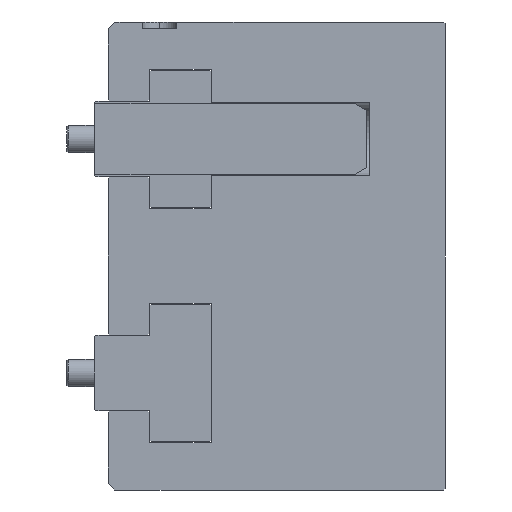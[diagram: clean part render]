
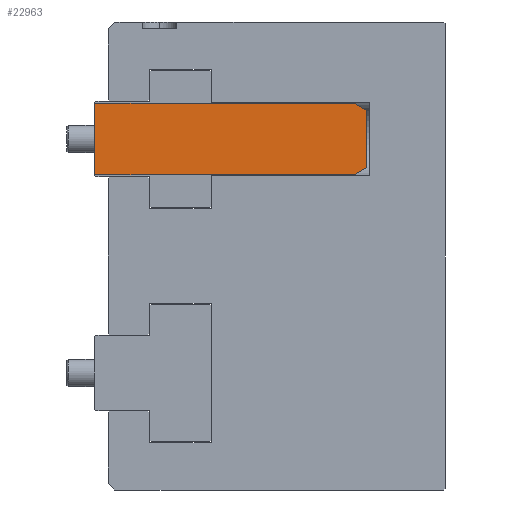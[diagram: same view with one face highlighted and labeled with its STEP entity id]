
A CAD part, left-side view. The second image highlights one B-rep face of the part: STEP entity #22963.
In plain terms, the highlighted planar face has unit normal (-1, 0, 0).
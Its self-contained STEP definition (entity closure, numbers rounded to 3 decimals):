
#3 = VECTOR ( 'NONE', #31892, 1000. ) ;
#511 = CARTESIAN_POINT ( 'NONE',  ( -160., -45., -8.329 ) ) ;
#1090 = VERTEX_POINT ( 'NONE', #12431 ) ;
#1132 = AXIS2_PLACEMENT_3D ( 'NONE', #21867, #25609, #4049 ) ;
#1576 = DIRECTION ( 'NONE',  ( 0., -1., 0. ) ) ;
#1589 = VECTOR ( 'NONE', #38367, 1000. ) ;
#2065 = EDGE_CURVE ( 'NONE', #13838, #34475, #9407, .T. ) ;
#2120 = VERTEX_POINT ( 'NONE', #15553 ) ;
#4049 = DIRECTION ( 'NONE',  ( 0., 0., 1. ) ) ;
#4270 = ORIENTED_EDGE ( 'NONE', *, *, #31049, .T. ) ;
#4811 = LINE ( 'NONE', #15697, #33547 ) ;
#7438 = LINE ( 'NONE', #46074, #44572 ) ;
#9407 = LINE ( 'NONE', #18251, #45427 ) ;
#9586 = CARTESIAN_POINT ( 'NONE',  ( -160., -41.5, 10.35 ) ) ;
#10722 = LINE ( 'NONE', #35538, #3 ) ;
#12300 = LINE ( 'NONE', #45439, #1589 ) ;
#12431 = CARTESIAN_POINT ( 'NONE',  ( -160., 33.499, 10.35 ) ) ;
#12503 = ORIENTED_EDGE ( 'NONE', *, *, #31874, .F. ) ;
#13838 = VERTEX_POINT ( 'NONE', #40082 ) ;
#13973 = CARTESIAN_POINT ( 'NONE',  ( -160., 33.999, -9.85 ) ) ;
#14657 = ORIENTED_EDGE ( 'NONE', *, *, #27374, .F. ) ;
#15187 = CARTESIAN_POINT ( 'NONE',  ( -160., 33.499, -10.35 ) ) ;
#15553 = CARTESIAN_POINT ( 'NONE',  ( -160., -41.5, -10.35 ) ) ;
#15697 = CARTESIAN_POINT ( 'NONE',  ( -160., -45., -10.35 ) ) ;
#16146 = CARTESIAN_POINT ( 'NONE',  ( -160., 33.999, -9.85 ) ) ;
#16614 = VECTOR ( 'NONE', #29096, 1000. ) ;
#17879 = ORIENTED_EDGE ( 'NONE', *, *, #24024, .F. ) ;
#18251 = CARTESIAN_POINT ( 'NONE',  ( -160., -45., 8.329 ) ) ;
#19903 = VERTEX_POINT ( 'NONE', #15187 ) ;
#20675 = ORIENTED_EDGE ( 'NONE', *, *, #31161, .T. ) ;
#21120 = LINE ( 'NONE', #41084, #40272 ) ;
#21590 = ORIENTED_EDGE ( 'NONE', *, *, #22778, .T. ) ;
#21867 = CARTESIAN_POINT ( 'NONE',  ( -160., -45., -10.35 ) ) ;
#22015 = PLANE ( 'NONE',  #1132 ) ;
#22044 = DIRECTION ( 'NONE',  ( 0., 0.866, 0.5 ) ) ;
#22778 = EDGE_CURVE ( 'NONE', #1090, #29457, #7438, .T. ) ;
#22963 = ADVANCED_FACE ( 'NONE', ( #29389 ), #22015, .T. ) ;
#24024 = EDGE_CURVE ( 'NONE', #19903, #42054, #40037, .T. ) ;
#24706 = EDGE_CURVE ( 'NONE', #2120, #38646, #10722, .T. ) ;
#25609 = DIRECTION ( 'NONE',  ( -1., 0., 0. ) ) ;
#27374 = EDGE_CURVE ( 'NONE', #2120, #19903, #12300, .T. ) ;
#29096 = DIRECTION ( 'NONE',  ( 0., 0., -1. ) ) ;
#29389 = FACE_OUTER_BOUND ( 'NONE', #45423, .T. ) ;
#29457 = VERTEX_POINT ( 'NONE', #40340 ) ;
#30452 = VECTOR ( 'NONE', #42769, 1000. ) ;
#31049 = EDGE_CURVE ( 'NONE', #29457, #42054, #44235, .T. ) ;
#31161 = EDGE_CURVE ( 'NONE', #38646, #13838, #4811, .T. ) ;
#31874 = EDGE_CURVE ( 'NONE', #1090, #34475, #21120, .T. ) ;
#31892 = DIRECTION ( 'NONE',  ( 0., -0.866, 0.5 ) ) ;
#33547 = VECTOR ( 'NONE', #37415, 1000. ) ;
#34062 = ORIENTED_EDGE ( 'NONE', *, *, #24706, .T. ) ;
#34475 = VERTEX_POINT ( 'NONE', #9586 ) ;
#35234 = DIRECTION ( 'NONE',  ( 0., 0.707, -0.707 ) ) ;
#35538 = CARTESIAN_POINT ( 'NONE',  ( -160., -41.5, -10.35 ) ) ;
#37415 = DIRECTION ( 'NONE',  ( 0., 0., 1. ) ) ;
#38050 = ORIENTED_EDGE ( 'NONE', *, *, #2065, .T. ) ;
#38367 = DIRECTION ( 'NONE',  ( 0., 1., 0. ) ) ;
#38646 = VERTEX_POINT ( 'NONE', #511 ) ;
#39629 = CARTESIAN_POINT ( 'NONE',  ( -160., 33.999, 10.35 ) ) ;
#40037 = LINE ( 'NONE', #13973, #30452 ) ;
#40082 = CARTESIAN_POINT ( 'NONE',  ( -160., -45., 8.329 ) ) ;
#40272 = VECTOR ( 'NONE', #1576, 1000. ) ;
#40340 = CARTESIAN_POINT ( 'NONE',  ( -160., 33.999, 9.85 ) ) ;
#41084 = CARTESIAN_POINT ( 'NONE',  ( -160., -45., 10.35 ) ) ;
#42054 = VERTEX_POINT ( 'NONE', #16146 ) ;
#42769 = DIRECTION ( 'NONE',  ( 0., 0.707, 0.707 ) ) ;
#44235 = LINE ( 'NONE', #39629, #16614 ) ;
#44572 = VECTOR ( 'NONE', #35234, 1000. ) ;
#45423 = EDGE_LOOP ( 'NONE', ( #17879, #14657, #34062, #20675, #38050, #12503, #21590, #4270 ) ) ;
#45427 = VECTOR ( 'NONE', #22044, 1000. ) ;
#45439 = CARTESIAN_POINT ( 'NONE',  ( -160., -45., -10.35 ) ) ;
#46074 = CARTESIAN_POINT ( 'NONE',  ( -160., 33.499, 10.35 ) ) ;
